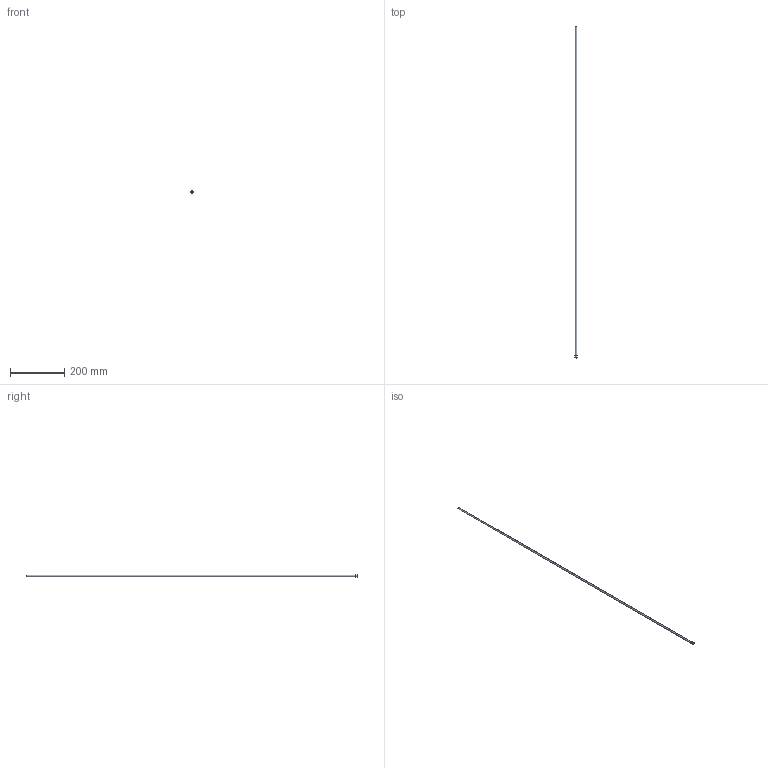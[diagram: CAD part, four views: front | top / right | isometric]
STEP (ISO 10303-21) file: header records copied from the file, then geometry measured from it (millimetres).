
FILE_DESCRIPTION(/* description */ (''),/* implementation_level */ '2;1');
FILE_NAME(/* name */ 'C:/Users/drich/Desktop/JHF250T-48 v1.step',/* time_stamp */ '2020-01-02T20:08:51-06:00',/* author */ (''),/* organization */ (''),/* preprocessor_version */ 'ST-DEVELOPER v18',/* originating_system */ 'Autodesk Translation Framework v8.12.0.6',/* authorisation */ '');
FILE_SCHEMA (('AUTOMOTIVE_DESIGN { 1 0 10303 214 3 1 1 }'));
Length unit declared in the file: inch
Products named in the file (1): JHF250T-48
Bounding box: 9.58 x 1219.2 x 9.58 mm (x, y, z)
Volume: 6279.1 mm3; surface area: 46866 mm2
Topology: 1 solids, 1 shells, 10 faces, 24 edges, 18 vertices
Faces by surface type: cylinder 4, plane 4, cone 1, torus 1
Full cylindrical faces by diameter (mm): 5.842 x1, 6.35 x1, 9.434 x1, 9.576 x1
Entity records: 354 total; most frequent: DIRECTION 65, CARTESIAN_POINT 53, ORIENTED_EDGE 48, AXIS2_PLACEMENT_3D 30, EDGE_CURVE 24, CIRCLE 19, VERTEX_POINT 18, EDGE_LOOP 14
